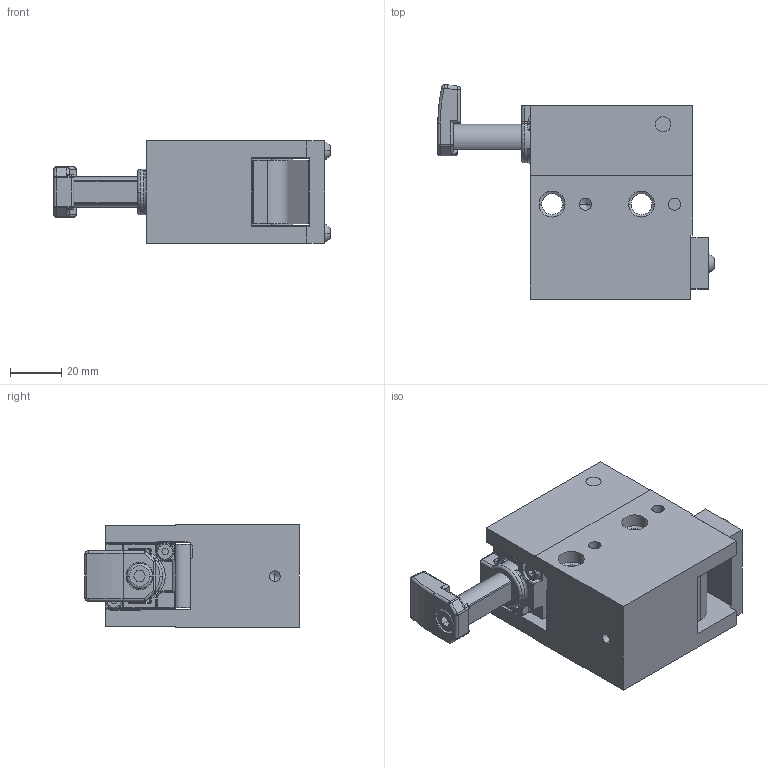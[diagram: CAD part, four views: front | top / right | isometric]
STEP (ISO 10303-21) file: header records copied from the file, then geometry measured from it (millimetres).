
FILE_DESCRIPTION (( 'STEP AP203' ), '1' );
FILE_NAME ('PND-67-08-EW Stellung oben ausgefahren.STEP', '2021-07-20T11:20:59', ( '' ), ( '' ), 'SwSTEP 2.0', 'SolidWorks 2019', '' );
FILE_SCHEMA (( 'CONFIG_CONTROL_DESIGN' ));
Length unit declared in the file: millimetre
Products named in the file (1): PND-67-08-EW Stellung oben ausgefahren
Bounding box: 108.3 x 84 x 40.2 mm (x, y, z)
Volume: 175773.6 mm3; surface area: 43372.2 mm2
Topology: 1 solids, 3 shells, 454 faces, 1129 edges, 671 vertices
Faces by surface type: cylinder 175, plane 166, torus 56, sphere 21, cone 20, bspline 16
Entity records: 13874 total; most frequent: CARTESIAN_POINT 3083, DIRECTION 2333, ORIENTED_EDGE 2208, EDGE_CURVE 1104, AXIS2_PLACEMENT_3D 870, VERTEX_POINT 671, VECTOR 593, LINE 593
